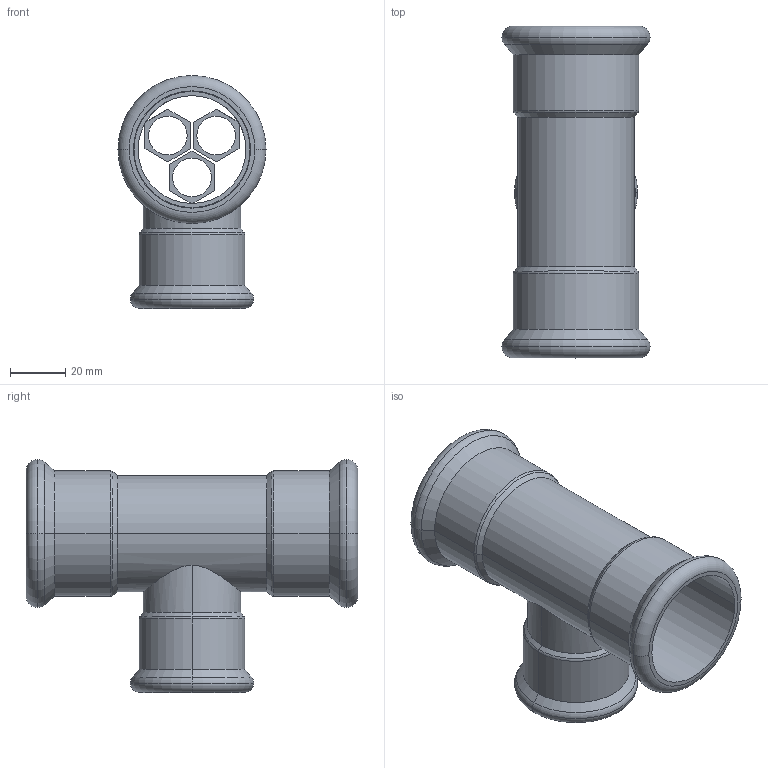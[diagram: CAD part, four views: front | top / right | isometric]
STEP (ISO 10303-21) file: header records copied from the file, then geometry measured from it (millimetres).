
FILE_DESCRIPTION(('OneSpaceDesigner STEP Export'),'2;1');
FILE_NAME('R2715 42x35x42.stp','2010-06-10T 9:07:14',(''),(''),'OneSpace Designer STEP processor for AP214 (Solid Model)','OneSpace Modeling 15.00A 14-Mar-2007 (C) CoCreate Software GmbH','');
FILE_SCHEMA(('AUTOMOTIVE_DESIGN { 1 0 10303 214 1 1 1 1 }'));
Length unit declared in the file: millimetre
Products named in the file (2): R2715_42x35x42
Assembly tree (1 placements, depth 2):
  R2715_42x35x42
    R2715_42x35x42
Bounding box: 53.55 x 120 x 84.28 mm (x, y, z)
Volume: 44733.5 mm3; surface area: 47942.6 mm2
Topology: 1 solids, 1 shells, 174 faces, 431 edges, 276 vertices
Faces by surface type: plane 90, cylinder 54, torus 18, cone 12
Entity records: 5894 total; most frequent: CARTESIAN_POINT 2073, ORIENTED_EDGE 862, DIRECTION 671, EDGE_CURVE 431, VERTEX_POINT 276, VECTOR 263, LINE 263, EDGE_LOOP 211
